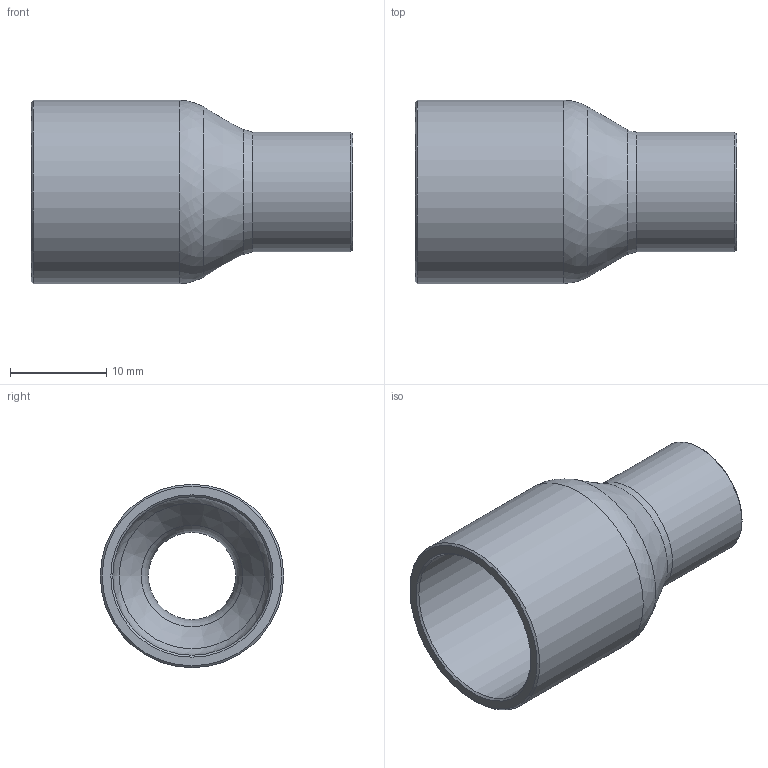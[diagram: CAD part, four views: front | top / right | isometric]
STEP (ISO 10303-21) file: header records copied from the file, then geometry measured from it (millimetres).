
FILE_DESCRIPTION((''),'2;1');
FILE_NAME('G:\SANHA-Ternat\Technik\Management\Bouwmaten + markeringen\z-maattekeningen 3D\29000s\292433438_3d.stp','2017-08-03T15:41:33',('vdvijverd'),(''),'Autodesk Inventor 2009','Autodesk Inventor 2009','');
FILE_SCHEMA(('AUTOMOTIVE_DESIGN { 1 0 10303 214 1 1 1 1 }'));
Length unit declared in the file: millimetre
Products named in the file (1): 292433438_3d
Bounding box: 33.4 x 19.05 x 19.05 mm (x, y, z)
Volume: 2184.9 mm3; surface area: 3306 mm2
Topology: 1 solids, 1 shells, 17 faces, 32 edges, 17 vertices
Faces by surface type: cone 6, cylinder 4, bspline 4, plane 2, torus 1
Full cylindrical faces by diameter (mm): 9.645 x1, 12.445 x1, 16.45 x1, 19.05 x1
Entity records: 534 total; most frequent: CARTESIAN_POINT 228, DIRECTION 62, ORIENTED_EDGE 34, EDGE_LOOP 34, AXIS2_PLACEMENT_3D 31, VERTEX_POINT 17, CIRCLE 17, EDGE_CURVE 17
